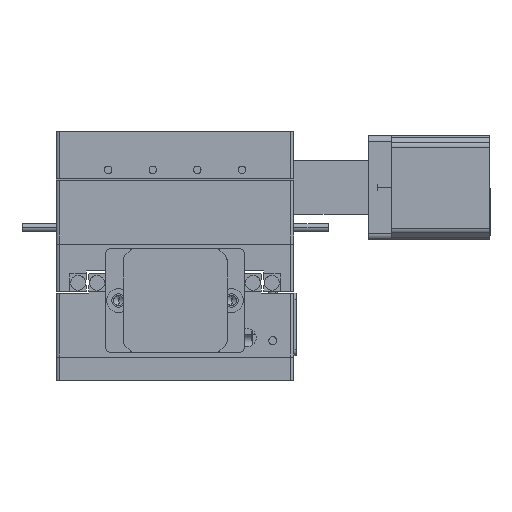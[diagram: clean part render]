
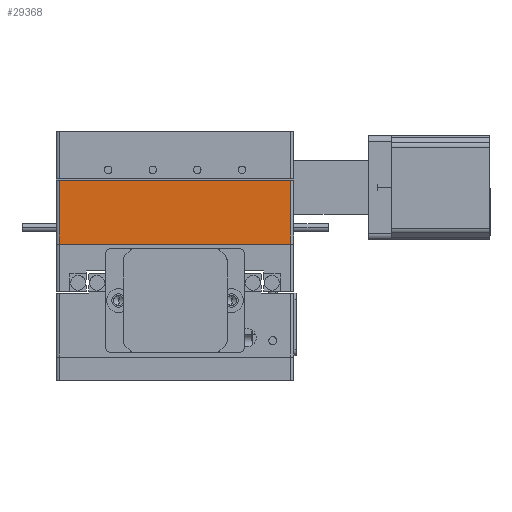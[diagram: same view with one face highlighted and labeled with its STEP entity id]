
A CAD part, left-side view. The second image highlights one B-rep face of the part: STEP entity #29368.
In plain terms, the highlighted planar face has unit normal (-1, 0, 0) as drawn and (0, 1, 0) by its records, which use the part's own axes.
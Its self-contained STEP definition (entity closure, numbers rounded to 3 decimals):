
#707 = CARTESIAN_POINT ( 'NONE',  ( -46.079, 40., 22. ) ) ;
#1226 = EDGE_CURVE ( 'NONE', #12828, #4345, #21391, .T. ) ;
#2276 = CARTESIAN_POINT ( 'NONE',  ( -46.079, 40., 0.5 ) ) ;
#2451 = CARTESIAN_POINT ( 'NONE',  ( 32.921, 40., 22. ) ) ;
#2595 = EDGE_CURVE ( 'NONE', #8982, #5476, #21536, .T. ) ;
#3230 = DIRECTION ( 'NONE',  ( 0., 0., 1. ) ) ;
#3293 = DIRECTION ( 'NONE',  ( -1., 0., 0. ) ) ;
#3650 = CARTESIAN_POINT ( 'NONE',  ( 32.921, 40., 0.5 ) ) ;
#4345 = VERTEX_POINT ( 'NONE', #27847 ) ;
#5248 = DIRECTION ( 'NONE',  ( 0., -1., 0. ) ) ;
#5476 = VERTEX_POINT ( 'NONE', #3650 ) ;
#5543 = EDGE_LOOP ( 'NONE', ( #17993, #15215, #13281, #13070 ) ) ;
#6806 = DIRECTION ( 'NONE',  ( 1., 0., 0. ) ) ;
#8982 = VERTEX_POINT ( 'NONE', #2451 ) ;
#10084 = LINE ( 'NONE', #707, #12334 ) ;
#12334 = VECTOR ( 'NONE', #3293, 1000. ) ;
#12828 = VERTEX_POINT ( 'NONE', #23388 ) ;
#13064 = VECTOR ( 'NONE', #3230, 1000. ) ;
#13070 = ORIENTED_EDGE ( 'NONE', *, *, #2595, .T. ) ;
#13281 = ORIENTED_EDGE ( 'NONE', *, *, #27638, .F. ) ;
#14188 = PLANE ( 'NONE',  #20208 ) ;
#14482 = DIRECTION ( 'NONE',  ( 0., 0., -1. ) ) ;
#14726 = CARTESIAN_POINT ( 'NONE',  ( 32.921, 40., 22. ) ) ;
#15215 = ORIENTED_EDGE ( 'NONE', *, *, #1226, .T. ) ;
#17993 = ORIENTED_EDGE ( 'NONE', *, *, #24263, .F. ) ;
#19110 = CARTESIAN_POINT ( 'NONE',  ( -45.079, 40., 22. ) ) ;
#20208 = AXIS2_PLACEMENT_3D ( 'NONE', #25837, #5248, #14482 ) ;
#21391 = LINE ( 'NONE', #19110, #13064 ) ;
#21536 = LINE ( 'NONE', #14726, #28556 ) ;
#22597 = VECTOR ( 'NONE', #6806, 1000. ) ;
#23002 = LINE ( 'NONE', #2276, #22597 ) ;
#23388 = CARTESIAN_POINT ( 'NONE',  ( -45.079, 40., 0.5 ) ) ;
#24263 = EDGE_CURVE ( 'NONE', #12828, #5476, #23002, .T. ) ;
#25837 = CARTESIAN_POINT ( 'NONE',  ( -46.079, 40., 22. ) ) ;
#25982 = FACE_OUTER_BOUND ( 'NONE', #5543, .T. ) ;
#27638 = EDGE_CURVE ( 'NONE', #8982, #4345, #10084, .T. ) ;
#27847 = CARTESIAN_POINT ( 'NONE',  ( -45.079, 40., 22. ) ) ;
#28556 = VECTOR ( 'NONE', #28633, 1000. ) ;
#28633 = DIRECTION ( 'NONE',  ( 0., 0., -1. ) ) ;
#29368 = ADVANCED_FACE ( 'NONE', ( #25982 ), #14188, .F. ) ;
